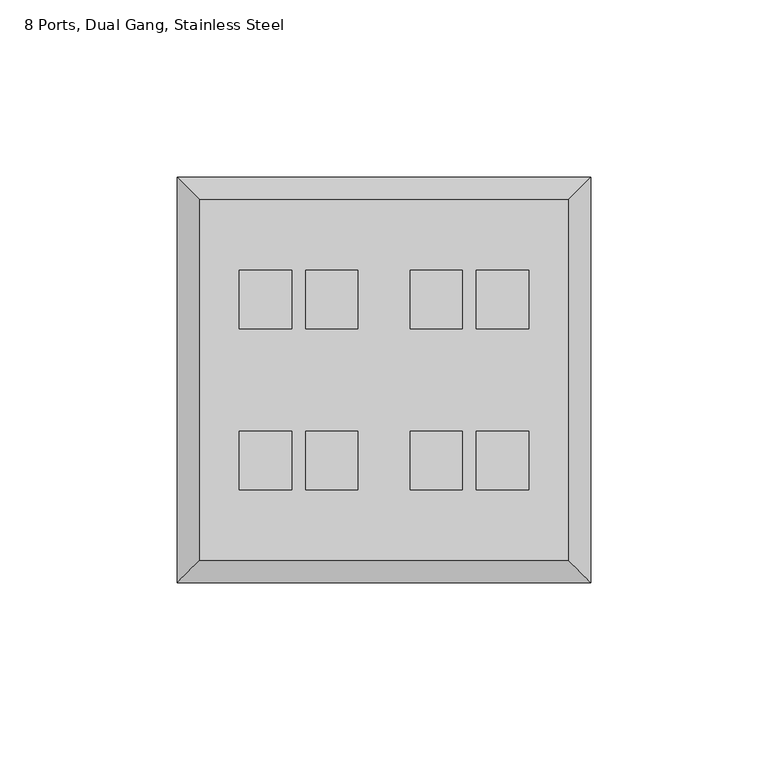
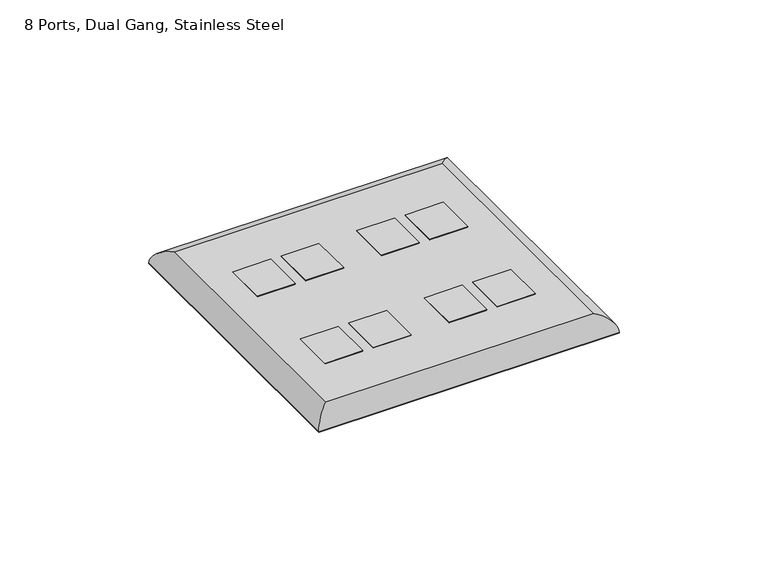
"""IFC4 building model written with IfcOpenShell, lengths in millimetres: electric appliance geometry, Data_Device-Work_Area-Leviton-QuickPort-Wallplate : 8 Ports, Dual Gang, Stainless Steel."""

from ifc_helpers import new_model, si_unit, frame, origin, origin_with_axes, place, context, project, spatial, polyline, ellipse_curve, outline, extrude, source, transform, mapped, element, save
from ifc_brep_helpers import plane_surface, cylinder_surface, advanced_brep


def electric_appliance_8_ports_dual_gang_stainless_steel_0040981b(model_context):
    return source(origin(), model_context, "Body", "SolidModel", [
        extrude(outline(polyline([(-30.3911, 39.1414), (-30.3911, 22.6314), (-45.1231, 22.6314), (-45.1231, 39.1414), (-30.3911, 39.1414)])), origin_with_axes(), (0.0, 0.0, 1.0), 6.35),
        extrude(outline(polyline([(-30.3911, -22.7584), (-45.1231, -22.7584), (-45.1231, -6.2484), (-30.3911, -6.2484), (-30.3911, -22.7584)])), origin_with_axes(), (0.0, 0.0, 1.0), 6.35),
        extrude(outline(polyline([(-0.9271, 39.1414), (-0.9271, 22.6314), (-15.6591, 22.6314), (-15.6591, 39.1414), (-0.9271, 39.1414)])), origin_with_axes(), (0.0, 0.0, 1.0), 6.35),
        extrude(outline(polyline([(-0.9271, -22.7584), (-15.6591, -22.7584), (-15.6591, -6.2484), (-0.9271, -6.2484), (-0.9271, -22.7584)])), origin_with_axes(), (0.0, 0.0, 1.0), 6.35),
        extrude(outline(polyline([(-49.0601, 39.1414), (-49.0601, 22.6314), (-63.7921, 22.6314), (-63.7921, 39.1414), (-49.0601, 39.1414)])), origin_with_axes(), (0.0, 0.0, 1.0), 6.35),
        extrude(outline(polyline([(-49.0601, -22.7584), (-63.7921, -22.7584), (-63.7921, -6.2484), (-49.0601, -6.2484), (-49.0601, -22.7584)])), origin_with_axes(), (0.0, 0.0, 1.0), 6.35),
        extrude(outline(polyline([(17.7419, 39.1414), (17.7419, 22.6314), (3.0099, 22.6314), (3.0099, 39.1414), (17.7419, 39.1414)])), origin_with_axes(), (0.0, 0.0, 1.0), 6.35),
        extrude(outline(polyline([(17.7419, -22.7584), (3.0099, -22.7584), (3.0099, -6.2484), (17.7419, -6.2484), (17.7419, -22.7584)])), origin_with_axes(), (0.0, 0.0, 1.0), 6.35),
        advanced_brep(
        [(28.9179, -42.6085, 6.35), (28.9179, 58.9915, 6.35), (-74.9681, 58.9915, 6.35), (-74.9681, -42.6085, 6.35), (-45.1231, 39.1414, 6.35), (-30.3911, 39.1414, 6.35), (-30.3911, 22.6314, 6.35), (-45.1231, 22.6314, 6.35), (-45.1231, -6.2484, 6.35), (-30.3911, -6.2484, 6.35), (-30.3911, -22.7584, 6.35), (-45.1231, -22.7584, 6.35), (-15.6591, 39.1414, 6.35), (-0.9271, 39.1414, 6.35), (-0.9271, 22.6314, 6.35), (-15.6591, 22.6314, 6.35), (-15.6591, -6.2484, 6.35), (-0.9271, -6.2484, 6.35), (-0.9271, -22.7584, 6.35), (-15.6591, -22.7584, 6.35), (-63.7921, 39.1414, 6.35), (-49.0601, 39.1414, 6.35), (-49.0601, 22.6314, 6.35), (-63.7921, 22.6314, 6.35), (-63.7921, -6.2484, 6.35), (-49.0601, -6.2484, 6.35), (-49.0601, -22.7584, 6.35), (-63.7921, -22.7584, 6.35), (3.0099, 39.1414, 6.35), (17.7419, 39.1414, 6.35), (17.7419, 22.6314, 6.35), (3.0099, 22.6314, 6.35), (3.0099, -6.2484, 6.35), (17.7419, -6.2484, 6.35), (17.7419, -22.7584, 6.35), (3.0099, -22.7584, 6.35), (35.2679, 65.3415, 0.0), (35.2679, -48.9585, 0.0), (-81.3181, -48.9585, 0.0), (-81.3181, 65.3415, 0.0), (-30.3911, 39.1414, 0.0), (-45.1231, 39.1414, 0.0), (-45.1231, 22.6314, 0.0), (-30.3911, 22.6314, 0.0), (-30.3911, -6.2484, 0.0), (-45.1231, -6.2484, 0.0), (-45.1231, -22.7584, 0.0), (-30.3911, -22.7584, 0.0), (-0.9271, 39.1414, 0.0), (-15.6591, 39.1414, 0.0), (-15.6591, 22.6314, 0.0), (-0.9271, 22.6314, 0.0), (-0.9271, -6.2484, 0.0), (-15.6591, -6.2484, 0.0), (-15.6591, -22.7584, 0.0), (-0.9271, -22.7584, 0.0), (-49.0601, 39.1414, 0.0), (-63.7921, 39.1414, 0.0), (-63.7921, 22.6314, 0.0), (-49.0601, 22.6314, 0.0), (-49.0601, -6.2484, 0.0), (-63.7921, -6.2484, 0.0), (-63.7921, -22.7584, 0.0), (-49.0601, -22.7584, 0.0), (17.7419, 39.1414, 0.0), (3.0099, 39.1414, 0.0), (3.0099, 22.6314, 0.0), (17.7419, 22.6314, 0.0), (17.7419, -6.2484, 0.0), (3.0099, -6.2484, 0.0), (3.0099, -22.7584, 0.0), (17.7419, -22.7584, 0.0), (-81.3181, 65.3415, 0.254), (35.2679, 65.3415, 0.254), (-81.3181, -48.9585, 0.254), (35.2679, -48.9585, 0.254)],
        [
            (0, 1),
            (1, 2),
            (2, 3),
            (3, 0),
            (4, 5),
            (5, 6),
            (6, 7),
            (7, 4),
            (8, 9),
            (9, 10),
            (10, 11),
            (11, 8),
            (12, 13),
            (13, 14),
            (14, 15),
            (15, 12),
            (16, 17),
            (17, 18),
            (18, 19),
            (19, 16),
            (20, 21),
            (21, 22),
            (22, 23),
            (23, 20),
            (24, 25),
            (25, 26),
            (26, 27),
            (27, 24),
            (28, 29),
            (29, 30),
            (30, 31),
            (31, 28),
            (32, 33),
            (33, 34),
            (34, 35),
            (35, 32),
            (36, 37),
            (37, 38),
            (38, 39),
            (39, 36),
            (40, 41),
            (41, 42),
            (42, 43),
            (43, 40),
            (44, 45),
            (45, 46),
            (46, 47),
            (47, 44),
            (48, 49),
            (49, 50),
            (50, 51),
            (51, 48),
            (52, 53),
            (53, 54),
            (54, 55),
            (55, 52),
            (56, 57),
            (57, 58),
            (58, 59),
            (59, 56),
            (60, 61),
            (61, 62),
            (62, 63),
            (63, 60),
            (64, 65),
            (65, 66),
            (66, 67),
            (67, 64),
            (68, 69),
            (69, 70),
            (70, 71),
            (71, 68),
            (39, 72),
            (72, 73),
            (73, 36),
            (38, 74),
            (74, 72),
            (37, 75),
            (75, 74),
            (73, 75),
            (4, 41),
            (40, 5),
            (7, 42),
            (6, 43),
            (8, 45),
            (44, 9),
            (11, 46),
            (10, 47),
            (12, 49),
            (48, 13),
            (15, 50),
            (14, 51),
            (16, 53),
            (52, 17),
            (19, 54),
            (18, 55),
            (20, 57),
            (56, 21),
            (59, 22),
            (58, 23),
            (24, 61),
            (60, 25),
            (63, 26),
            (62, 27),
            (28, 65),
            (64, 29),
            (67, 30),
            (66, 31),
            (32, 69),
            (68, 33),
            (71, 34),
            (70, 35),
            (0, 75, ellipse_curve(frame((28.9179, -42.6085, -0.0052917), z_axis=(0.7071067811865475, 0.7071067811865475, 0.0), x_axis=(0.7071067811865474, -0.7071067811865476, 0.0)), 8.9877397, 6.3552917)),
            (73, 1, ellipse_curve(frame((28.9179, 58.9915, -0.0052917), z_axis=(0.7071067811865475, -0.7071067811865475, 0.0), x_axis=(-0.7071067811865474, -0.7071067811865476, 0.0)), 8.9877397, 6.3552917)),
            (3, 74, ellipse_curve(frame((-74.9681, -42.6085, -0.0052917), z_axis=(0.7071067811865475, -0.7071067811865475, 0.0), x_axis=(-0.7071067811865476, -0.7071067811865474, 0.0)), 8.9877397, 6.3552917)),
            (2, 72, ellipse_curve(frame((-74.9681, 58.9915, -0.0052917), z_axis=(-0.7071067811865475, -0.7071067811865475, 0.0), x_axis=(-0.7071067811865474, 0.7071067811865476, 0.0)), 8.9877397, 6.3552917)),
        ],
        [
            plane_surface(frame((-81.3181, 65.3415, 6.35), z_axis=(0.0, 0.0, 1.0), x_axis=(-1.0, 0.0, 0.0))),
            plane_surface(frame((-81.3181, 65.3415, 0.0), z_axis=(0.0, 0.0, -1.0), x_axis=(1.0, 0.0, 0.0))),
            plane_surface(frame((35.2679, 65.3415, 6.35), z_axis=(0.0, 1.0, 0.0), x_axis=(0.0, 0.0, -1.0))),
            plane_surface(frame((-81.3181, 65.3415, 6.35), z_axis=(-1.0, 0.0, 0.0), x_axis=(0.0, 0.0, -1.0))),
            plane_surface(frame((-81.3181, -48.9585, 6.35), z_axis=(0.0, -1.0, 0.0), x_axis=(0.0, 0.0, -1.0))),
            plane_surface(frame((35.2679, -48.9585, 6.35), z_axis=(1.0, 0.0, 0.0), x_axis=(0.0, 0.0, -1.0))),
            plane_surface(frame((-30.3911, 39.1414, 6.35), z_axis=(0.0, -1.0, 0.0), x_axis=(0.0, 0.0, -1.0))),
            plane_surface(frame((-45.1231, 39.1414, 6.35), z_axis=(1.0, 0.0, 0.0), x_axis=(0.0, 0.0, -1.0))),
            plane_surface(frame((-45.1231, 22.6314, 6.35), z_axis=(0.0, 1.0, 0.0), x_axis=(0.0, 0.0, -1.0))),
            plane_surface(frame((-30.3911, 22.6314, 6.35), z_axis=(-1.0, 0.0, 0.0), x_axis=(0.0, 0.0, -1.0))),
            plane_surface(frame((-30.3911, -6.2484, 6.35), z_axis=(0.0, -1.0, 0.0), x_axis=(0.0, 0.0, -1.0))),
            plane_surface(frame((-45.1231, -6.2484, 6.35), z_axis=(1.0, 0.0, 0.0), x_axis=(0.0, 0.0, -1.0))),
            plane_surface(frame((-45.1231, -22.7584, 6.35), z_axis=(0.0, 1.0, 0.0), x_axis=(0.0, 0.0, -1.0))),
            plane_surface(frame((-30.3911, -22.7584, 6.35), z_axis=(-1.0, 0.0, 0.0), x_axis=(0.0, 0.0, -1.0))),
            plane_surface(frame((-0.9271, 39.1414, 6.35), z_axis=(0.0, -1.0, 0.0), x_axis=(0.0, 0.0, -1.0))),
            plane_surface(frame((-15.6591, 39.1414, 6.35), z_axis=(1.0, 0.0, 0.0), x_axis=(0.0, 0.0, -1.0))),
            plane_surface(frame((-15.6591, 22.6314, 6.35), z_axis=(0.0, 1.0, 0.0), x_axis=(0.0, 0.0, -1.0))),
            plane_surface(frame((-0.9271, 22.6314, 6.35), z_axis=(-1.0, 0.0, 0.0), x_axis=(0.0, 0.0, -1.0))),
            plane_surface(frame((-0.9271, -6.2484, 6.35), z_axis=(0.0, -1.0, 0.0), x_axis=(0.0, 0.0, -1.0))),
            plane_surface(frame((-15.6591, -6.2484, 6.35), z_axis=(1.0, 0.0, 0.0), x_axis=(0.0, 0.0, -1.0))),
            plane_surface(frame((-15.6591, -22.7584, 6.35), z_axis=(0.0, 1.0, 0.0), x_axis=(0.0, 0.0, -1.0))),
            plane_surface(frame((-0.9271, -22.7584, 6.35), z_axis=(-1.0, 0.0, 0.0), x_axis=(0.0, 0.0, -1.0))),
            plane_surface(frame((-49.0601, 39.1414, 6.35), z_axis=(0.0, -1.0, 0.0), x_axis=(0.0, 0.0, -1.0))),
            plane_surface(frame((-49.0601, 22.6314, 6.35), z_axis=(-1.0, 0.0, 0.0), x_axis=(0.0, 0.0, -1.0))),
            plane_surface(frame((-63.7921, 22.6314, 6.35), z_axis=(0.0, 1.0, 0.0), x_axis=(0.0, 0.0, -1.0))),
            plane_surface(frame((-63.7921, 39.1414, 6.35), z_axis=(1.0, 0.0, 0.0), x_axis=(0.0, 0.0, -1.0))),
            plane_surface(frame((-49.0601, -6.2484, 6.35), z_axis=(0.0, -1.0, 0.0), x_axis=(0.0, 0.0, -1.0))),
            plane_surface(frame((-49.0601, -22.7584, 6.35), z_axis=(-1.0, 0.0, 0.0), x_axis=(0.0, 0.0, -1.0))),
            plane_surface(frame((-63.7921, -22.7584, 6.35), z_axis=(0.0, 1.0, 0.0), x_axis=(0.0, 0.0, -1.0))),
            plane_surface(frame((-63.7921, -6.2484, 6.35), z_axis=(1.0, 0.0, 0.0), x_axis=(0.0, 0.0, -1.0))),
            plane_surface(frame((17.7419, 39.1414, 6.35), z_axis=(0.0, -1.0, 0.0), x_axis=(0.0, 0.0, -1.0))),
            plane_surface(frame((17.7419, 22.6314, 6.35), z_axis=(-1.0, 0.0, 0.0), x_axis=(0.0, 0.0, -1.0))),
            plane_surface(frame((3.0099, 22.6314, 6.35), z_axis=(0.0, 1.0, 0.0), x_axis=(0.0, 0.0, -1.0))),
            plane_surface(frame((3.0099, 39.1414, 6.35), z_axis=(1.0, 0.0, 0.0), x_axis=(0.0, 0.0, -1.0))),
            plane_surface(frame((17.7419, -6.2484, 6.35), z_axis=(0.0, -1.0, 0.0), x_axis=(0.0, 0.0, -1.0))),
            plane_surface(frame((17.7419, -22.7584, 6.35), z_axis=(-1.0, 0.0, 0.0), x_axis=(0.0, 0.0, -1.0))),
            plane_surface(frame((3.0099, -22.7584, 6.35), z_axis=(0.0, 1.0, 0.0), x_axis=(0.0, 0.0, -1.0))),
            plane_surface(frame((3.0099, -6.2484, 6.35), z_axis=(1.0, 0.0, 0.0), x_axis=(0.0, 0.0, -1.0))),
            cylinder_surface(frame((28.9179, 65.3415, -0.0052917), z_axis=(0.0, -1.0, 0.0), x_axis=(1.0, 0.0, 0.0)), 6.3552917),
            cylinder_surface(frame((35.2679, -42.6085, -0.0052917), z_axis=(-1.0, 0.0, 0.0), x_axis=(0.0, -1.0, 0.0)), 6.3552917),
            cylinder_surface(frame((-74.9681, -48.9585, -0.0052917), z_axis=(0.0, 1.0, 0.0), x_axis=(-1.0, 0.0, 0.0)), 6.3552917),
            cylinder_surface(frame((-81.3181, 58.9915, -0.0052917), z_axis=(1.0, 0.0, 0.0), x_axis=(0.0, 1.0, 0.0)), 6.3552917),
        ],
        [
            (0, [[1, 2, 3, 4], [5, 6, 7, 8], [9, 10, 11, 12], [13, 14, 15, 16], [17, 18, 19, 20], [21, 22, 23, 24], [25, 26, 27, 28], [29, 30, 31, 32], [33, 34, 35, 36]]),
            (1, [[37, 38, 39, 40], [41, 42, 43, 44], [45, 46, 47, 48], [49, 50, 51, 52], [53, 54, 55, 56], [57, 58, 59, 60], [61, 62, 63, 64], [65, 66, 67, 68], [69, 70, 71, 72]]),
            (2, [[-40, 73, 74, 75]]),
            (3, [[-39, 76, 77, -73]]),
            (4, [[-38, 78, 79, -76]]),
            (5, [[-37, -75, 80, -78]]),
            (6, [[81, -41, 82, -5]]),
            (7, [[-81, -8, 83, -42]]),
            (8, [[-83, -7, 84, -43]]),
            (9, [[-82, -44, -84, -6]]),
            (10, [[85, -45, 86, -9]]),
            (11, [[-85, -12, 87, -46]]),
            (12, [[-87, -11, 88, -47]]),
            (13, [[-86, -48, -88, -10]]),
            (14, [[89, -49, 90, -13]]),
            (15, [[-89, -16, 91, -50]]),
            (16, [[-91, -15, 92, -51]]),
            (17, [[-90, -52, -92, -14]]),
            (18, [[93, -53, 94, -17]]),
            (19, [[-93, -20, 95, -54]]),
            (20, [[-95, -19, 96, -55]]),
            (21, [[-94, -56, -96, -18]]),
            (22, [[97, -57, 98, -21]]),
            (23, [[-98, -60, 99, -22]]),
            (24, [[-99, -59, 100, -23]]),
            (25, [[-97, -24, -100, -58]]),
            (26, [[101, -61, 102, -25]]),
            (27, [[-102, -64, 103, -26]]),
            (28, [[-103, -63, 104, -27]]),
            (29, [[-101, -28, -104, -62]]),
            (30, [[105, -65, 106, -29]]),
            (31, [[-106, -68, 107, -30]]),
            (32, [[-107, -67, 108, -31]]),
            (33, [[-105, -32, -108, -66]]),
            (34, [[109, -69, 110, -33]]),
            (35, [[-110, -72, 111, -34]]),
            (36, [[-111, -71, 112, -35]]),
            (37, [[-109, -36, -112, -70]]),
            (38, [[113, -80, 114, -1]]),
            (39, [[-113, -4, 115, -79]]),
            (40, [[-115, -3, 116, -77]]),
            (41, [[-114, -74, -116, -2]]),
        ],
    ),
        extrude(outline(polyline([(35.0139, 65.0875), (35.0139, -48.7045), (-81.0641, -48.7045), (-81.0641, 65.0875), (35.0139, 65.0875)]), holes=[polyline([(-30.3911, 39.1414), (-45.1231, 39.1414), (-45.1231, 22.6314), (-30.3911, 22.6314), (-30.3911, 39.1414)]), polyline([(-30.3911, -6.2484), (-45.1231, -6.2484), (-45.1231, -22.7584), (-30.3911, -22.7584), (-30.3911, -6.2484)]), polyline([(-0.9271, 39.1414), (-15.6591, 39.1414), (-15.6591, 22.6314), (-0.9271, 22.6314), (-0.9271, 39.1414)]), polyline([(-0.9271, -6.2484), (-15.6591, -6.2484), (-15.6591, -22.7584), (-0.9271, -22.7584), (-0.9271, -6.2484)]), polyline([(-49.0601, 39.1414), (-63.7921, 39.1414), (-63.7921, 22.6314), (-49.0601, 22.6314), (-49.0601, 39.1414)]), polyline([(-49.0601, -6.2484), (-63.7921, -6.2484), (-63.7921, -22.7584), (-49.0601, -22.7584), (-49.0601, -6.2484)]), polyline([(17.7419, 39.1414), (3.0099, 39.1414), (3.0099, 22.6314), (17.7419, 22.6314), (17.7419, 39.1414)]), polyline([(17.7419, -6.2484), (3.0099, -6.2484), (3.0099, -22.7584), (17.7419, -22.7584), (17.7419, -6.2484)])]), origin_with_axes(), (0.0, 0.0, 1.0), 0.254),
    ])


if __name__ == "__main__":
    model = new_model("IFC4")
    model_context = context("Model", 3, world=origin())
    ifc_project = project(units=[si_unit("LENGTHUNIT", "METRE", prefix="MILLI")], contexts=[model_context])
    site = spatial("IfcSite", under=ifc_project)
    building = spatial("IfcBuilding", under=site)
    placement = place(None, origin())
    electric_appliance_8_ports_dual_gang_stainless_steel_shape = electric_appliance_8_ports_dual_gang_stainless_steel_0040981b(model_context)
    element("IfcElectricAppliance", 1, ObjectType="Data_Device-Work_Area-Leviton-QuickPort-Wallplate : 8 Ports, Dual Gang, Stainless Steel", at=placement, inside=building, context=model_context, shape_type="MappedRepresentation", body=[
        mapped(electric_appliance_8_ports_dual_gang_stainless_steel_shape, transform((0.0, 0.0, 0.0), x_axis=(1.0, 0.0, 0.0), y_axis=(0.0, 1.0, 0.0), z_axis=(0.0, 0.0, 1.0))),
    ])
    save(model, "model.ifc")
